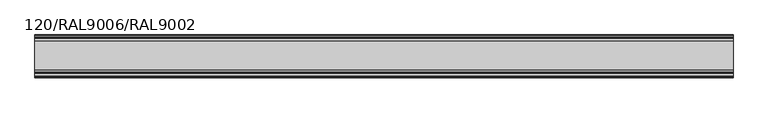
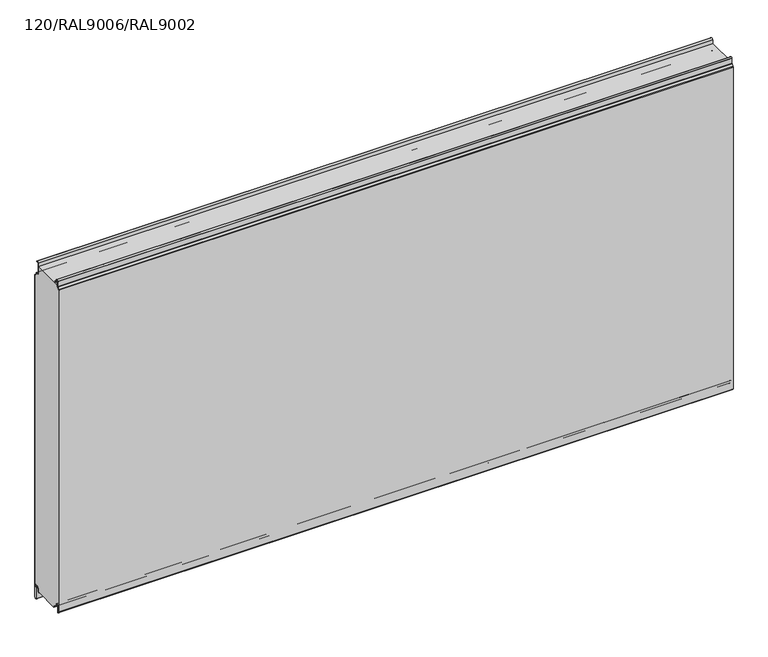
"""IFC4 building model written with IfcOpenShell, lengths in millimetres: plate geometry, TR_C_H_FHL_Panel : 120/RAL9006/RAL9002."""

from ifc_helpers import new_model, si_unit, point, frame, frame_2d, origin, place, context, project, spatial, polyline, circle_curve, trimmed, segment, composite_curve, outline, extrude, source, transform, mapped, element, save


def plate_120_ral9006_ral9002_4ea340ee(model_context):
    return source(origin(), model_context, "Body", "SweptSolid", [
        extrude(outline(composite_curve([segment(polyline([(-17.4455763, 1000.0), (-17.6, 998.2349288), (-17.6, 979.1)]), True, "CONTINUOUS"), segment(trimmed(circle_curve(frame_2d((-14.8, 979.1)), 2.8), [point((-17.6, 979.1))], [point((-14.8, 976.3))], True, "CARTESIAN"), True, "CONTINUOUS"), segment(polyline([(-14.8, 976.3), (-8.9, 976.3)]), True, "CONTINUOUS"), segment(trimmed(circle_curve(frame_2d((-8.9, 974.4)), 1.9), [point((-8.9, 976.3))], [point((-7.0, 974.4))], False, "CARTESIAN"), True, "CONTINUOUS"), segment(polyline([(-7.0, 974.4), (-7.0, 971.5838835)]), True, "CONTINUOUS"), segment(trimmed(circle_curve(frame_2d((-4.2, 971.5838835)), 2.8), [point((-7.0, 971.5838835))], [point((-6.179899, 969.6039845))], True, "CARTESIAN"), True, "CONTINUOUS"), segment(polyline([(-6.179899, 969.6039845), (-1.3564971, 964.7805826)]), True, "CONTINUOUS"), segment(trimmed(circle_curve(frame_2d((-2.7, 963.4370797)), 1.9), [point((-1.3564971, 964.7805826))], [point((-0.8, 963.4370797))], False, "CARTESIAN"), True, "CONTINUOUS"), segment(polyline([(-0.8, 963.4370797), (-0.8, 15.9993484), (-12.3520294, 15.9993484)]), True, "CONTINUOUS"), segment(trimmed(circle_curve(frame_2d((-12.3520294, 11.0993484)), 4.9), [point((-12.3520294, 15.9993484))], [point((-17.2333835, 11.5264116))], True, "CARTESIAN"), True, "CONTINUOUS"), segment(polyline([(-17.2333835, 11.5264116), (-18.0972969, 1.6518352)]), True, "CONTINUOUS"), segment(trimmed(circle_curve(frame_2d((-19.7908279, 1.8)), 1.7), [point((-18.0972969, 1.6518352))], [point((-19.7908279, 0.1))], False, "CARTESIAN"), True, "CONTINUOUS"), segment(polyline([(-19.7908279, 0.1), (-20.8, 0.0), (-94.86, 0.0), (-94.86, 7.9), (-102.3925589, 7.9)]), True, "CONTINUOUS"), segment(trimmed(circle_curve(frame_2d((-102.3925589, 10.85)), 2.95), [point((-102.3925589, 7.9))], [point((-105.2977418, 10.3377379))], False, "CARTESIAN"), True, "CONTINUOUS"), segment(polyline([(-105.2977418, 10.3377379), (-106.364567, 16.3880048)]), True, "CONTINUOUS"), segment(trimmed(circle_curve(frame_2d((-110.55, 15.65)), 4.25), [point((-106.364567, 16.3880048))], [point((-110.55, 19.9))], True, "CARTESIAN"), True, "CONTINUOUS"), segment(polyline([(-110.55, 19.9), (-119.2, 19.9), (-119.2, 989.8218254)]), True, "CONTINUOUS"), segment(trimmed(circle_curve(frame_2d((-117.0, 989.8218254)), 2.2), [point((-119.2, 989.8218254))], [point((-118.5556349, 991.3774603))], False, "CARTESIAN"), True, "CONTINUOUS"), segment(polyline([(-118.5556349, 991.3774603), (-114.1665476, 995.7665476)]), True, "CONTINUOUS"), segment(trimmed(circle_curve(frame_2d((-116.5, 998.1)), 3.3), [point((-114.1665476, 995.7665476))], [point((-113.2, 998.1))], True, "CARTESIAN"), True, "CONTINUOUS"), segment(polyline([(-113.2, 998.1), (-113.2, 1000.0), (-17.4455763, 1000.0)]), True, "CONTINUOUS")], self_intersect=False)), frame((-980.0, 0.0, 0.0), z_axis=(1.0, 0.0, 0.0), x_axis=(0.0, 1.0, 0.0)), (0.0, 0.0, 1.0), 1960.0),
        extrude(outline(composite_curve([segment(polyline([(-0.8, -25.1006169), (-0.8, 963.4370797)]), True, "CONTINUOUS"), segment(trimmed(circle_curve(frame_2d((-2.7, 963.4370797)), 1.9), [point((-0.8, 963.4370797))], [point((-1.3564971, 964.7805826))], True, "CARTESIAN"), True, "CONTINUOUS"), segment(polyline([(-1.3564971, 964.7805826), (-6.179899, 969.6039845)]), True, "CONTINUOUS"), segment(trimmed(circle_curve(frame_2d((-4.2, 971.5838835)), 2.8), [point((-6.179899, 969.6039845))], [point((-7.0, 971.5838835))], False, "CARTESIAN"), True, "CONTINUOUS"), segment(polyline([(-7.0, 971.5838835), (-7.0, 974.4)]), True, "CONTINUOUS"), segment(trimmed(circle_curve(frame_2d((-8.9, 974.4)), 1.9), [point((-7.0, 974.4))], [point((-8.9, 976.3))], True, "CARTESIAN"), True, "CONTINUOUS"), segment(polyline([(-8.9, 976.3), (-14.8, 976.3)]), True, "CONTINUOUS"), segment(trimmed(circle_curve(frame_2d((-14.8, 979.1)), 2.8), [point((-14.8, 976.3))], [point((-17.6, 979.1))], False, "CARTESIAN"), True, "CONTINUOUS"), segment(polyline([(-17.6, 979.1), (-17.6, 998.2349288), (-16.5051936, 1010.748623)]), True, "CONTINUOUS"), segment(trimmed(circle_curve(frame_2d((-12.5204148, 1010.4)), 4.0), [point((-16.5051936, 1010.748623))], [point((-8.7383405, 1011.7022726))], False, "CARTESIAN"), True, "CONTINUOUS"), segment(polyline([(-8.7383405, 1011.7022726), (-8.4287263, 1010.8030877), (-9.1851412, 1010.5426332), (-9.4947554, 1011.4418181)]), True, "CONTINUOUS"), segment(trimmed(circle_curve(frame_2d((-12.5204148, 1010.4)), 3.2), [point((-9.4947554, 1011.4418181))], [point((-15.7082379, 1010.6788984))], True, "CARTESIAN"), True, "CONTINUOUS"), segment(polyline([(-15.7082379, 1010.6788984), (-16.8, 998.2), (-16.8, 979.1)]), True, "CONTINUOUS"), segment(trimmed(circle_curve(frame_2d((-14.8, 979.1)), 2.0), [point((-16.8, 979.1))], [point((-14.8, 977.1))], True, "CARTESIAN"), True, "CONTINUOUS"), segment(polyline([(-14.8, 977.1), (-8.9, 977.1)]), True, "CONTINUOUS"), segment(trimmed(circle_curve(frame_2d((-8.9, 974.4)), 2.7), [point((-8.9, 977.1))], [point((-6.2, 974.4))], False, "CARTESIAN"), True, "CONTINUOUS"), segment(polyline([(-6.2, 974.4), (-6.2, 971.5838835)]), True, "CONTINUOUS"), segment(trimmed(circle_curve(frame_2d((-4.2, 971.5838835)), 2.0), [point((-6.2, 971.5838835))], [point((-5.6142136, 970.1696699))], True, "CARTESIAN"), True, "CONTINUOUS"), segment(polyline([(-5.6142136, 970.1696699), (-0.7908117, 965.346268)]), True, "CONTINUOUS"), segment(trimmed(circle_curve(frame_2d((-2.7, 963.4370797)), 2.7), [point((-0.7908117, 965.346268))], [point((0.0, 963.4370797))], False, "CARTESIAN"), True, "CONTINUOUS"), segment(polyline([(0.0, 963.4370797), (0.0, -25.1006169)]), True, "CONTINUOUS"), segment(trimmed(circle_curve(frame_2d((-2.7, -25.1006169)), 2.7), [point((0.0, -25.1006169))], [point((-0.8586044, -27.0752719))], False, "CARTESIAN"), True, "CONTINUOUS"), segment(polyline([(-0.8586044, -27.0752719), (-2.8042031, -28.889572)]), True, "CONTINUOUS"), segment(trimmed(circle_curve(frame_2d((-4.1, -27.5)), 1.9), [point((-2.8042031, -28.889572))], [point((-6.0, -27.5))], False, "CARTESIAN"), True, "CONTINUOUS"), segment(polyline([(-6.0, -27.5), (-6.0, 4.8267282)]), True, "CONTINUOUS"), segment(trimmed(circle_curve(frame_2d((-8.5, 4.8267282)), 2.5), [point((-6.0, 4.8267282))], [point((-6.1362036, 5.6406486))], True, "CARTESIAN"), True, "CONTINUOUS"), segment(polyline([(-6.1362036, 5.6406486), (-8.4754033, 12.4341779)]), True, "CONTINUOUS"), segment(trimmed(circle_curve(frame_2d((-12.3520294, 11.0993484)), 4.1), [point((-8.4754033, 12.4341779))], [point((-16.4364277, 11.456687))], True, "CARTESIAN"), True, "CONTINUOUS"), segment(polyline([(-16.4364277, 11.456687), (-17.3003412, 1.5821106)]), True, "CONTINUOUS"), segment(trimmed(circle_curve(frame_2d((-19.7908279, 1.8)), 2.5), [point((-17.3003412, 1.5821106))], [point((-19.7908279, -0.7))], False, "CARTESIAN"), True, "CONTINUOUS"), segment(polyline([(-19.7908279, -0.7), (-20.8, -0.7), (-20.8, 0.1), (-19.7908279, 0.1)]), True, "CONTINUOUS"), segment(trimmed(circle_curve(frame_2d((-19.7908279, 1.8)), 1.7), [point((-19.7908279, 0.1))], [point((-18.0972969, 1.6518352))], True, "CARTESIAN"), True, "CONTINUOUS"), segment(polyline([(-18.0972969, 1.6518352), (-17.2333835, 11.5264116)]), True, "CONTINUOUS"), segment(trimmed(circle_curve(frame_2d((-12.3520294, 11.0993484)), 4.9), [point((-17.2333835, 11.5264116))], [point((-7.7189884, 12.6946324))], False, "CARTESIAN"), True, "CONTINUOUS"), segment(polyline([(-7.7189884, 12.6946324), (-5.3797887, 5.9011031)]), True, "CONTINUOUS"), segment(trimmed(circle_curve(frame_2d((-8.5, 4.8267282)), 3.3), [point((-5.3797887, 5.9011031))], [point((-5.2, 4.8267282))], False, "CARTESIAN"), True, "CONTINUOUS"), segment(polyline([(-5.2, 4.8267282), (-5.2, -27.5)]), True, "CONTINUOUS"), segment(trimmed(circle_curve(frame_2d((-4.1, -27.5)), 1.1), [point((-5.2, -27.5))], [point((-3.3498018, -28.3044891))], True, "CARTESIAN"), True, "CONTINUOUS"), segment(polyline([(-3.3498018, -28.3044891), (-1.4042031, -26.4901889)]), True, "CONTINUOUS"), segment(trimmed(circle_curve(frame_2d((-2.7, -25.1006169)), 1.9), [point((-1.4042031, -26.4901889))], [point((-0.8, -25.1006169))], True, "CARTESIAN"), True, "CONTINUOUS")], self_intersect=False)), frame((-980.0, 0.0, 0.0), z_axis=(1.0, 0.0, 0.0), x_axis=(0.0, 1.0, 0.0)), (0.0, 0.0, 1.0), 1960.0),
        extrude(outline(composite_curve([segment(polyline([(-99.0, 7.1), (-102.3925589, 7.1)]), True, "CONTINUOUS"), segment(trimmed(circle_curve(frame_2d((-102.3925589, 10.85)), 3.75), [point((-102.3925589, 7.1))], [point((-106.085588, 10.1988193))], False, "CARTESIAN"), True, "CONTINUOUS"), segment(polyline([(-106.085588, 10.1988193), (-107.1524133, 16.2490862)]), True, "CONTINUOUS"), segment(trimmed(circle_curve(frame_2d((-110.55, 15.65)), 3.45), [point((-107.1524133, 16.2490862))], [point((-114.0, 15.65))], True, "CARTESIAN"), True, "CONTINUOUS"), segment(polyline([(-114.0, 15.65), (-114.0, -1.95)]), True, "CONTINUOUS"), segment(trimmed(circle_curve(frame_2d((-115.95, -1.95)), 1.95), [point((-114.0, -1.95))], [point((-117.3288582, -3.3288582))], False, "CARTESIAN"), True, "CONTINUOUS"), segment(polyline([(-117.3288582, -3.3288582), (-119.1945436, -1.4631728)]), True, "CONTINUOUS"), segment(trimmed(circle_curve(frame_2d((-117.25, 0.4813708)), 2.75), [point((-119.1945436, -1.4631728))], [point((-120.0, 0.4813708))], False, "CARTESIAN"), True, "CONTINUOUS"), segment(polyline([(-120.0, 0.4813708), (-120.0, 989.8218254)]), True, "CONTINUOUS"), segment(trimmed(circle_curve(frame_2d((-117.0, 989.8218254)), 3.0), [point((-120.0, 989.8218254))], [point((-119.1213203, 991.9431458))], False, "CARTESIAN"), True, "CONTINUOUS"), segment(polyline([(-119.1213203, 991.9431458), (-114.732233, 996.332233)]), True, "CONTINUOUS"), segment(trimmed(circle_curve(frame_2d((-116.5, 998.1)), 2.5), [point((-114.732233, 996.332233))], [point((-114.0, 998.1))], True, "CARTESIAN"), True, "CONTINUOUS"), segment(polyline([(-114.0, 998.1), (-114.0, 1012.85)]), True, "CONTINUOUS"), segment(trimmed(circle_curve(frame_2d((-110.75, 1012.85)), 3.25), [point((-114.0, 1012.85))], [point((-107.5493748, 1013.4143566))], False, "CARTESIAN"), True, "CONTINUOUS"), segment(polyline([(-107.5493748, 1013.4143566), (-106.8060618, 1009.1988193)]), True, "CONTINUOUS"), segment(trimmed(circle_curve(frame_2d((-103.1130328, 1009.85)), 3.75), [point((-106.8060618, 1009.1988193))], [point((-103.1130328, 1006.1))], True, "CARTESIAN"), True, "CONTINUOUS"), segment(polyline([(-103.1130328, 1006.1), (-99.0, 1006.1), (-99.0, 1005.3), (-103.1130328, 1005.3)]), True, "CONTINUOUS"), segment(trimmed(circle_curve(frame_2d((-103.1130328, 1009.85)), 4.55), [point((-103.1130328, 1005.3))], [point((-107.5939081, 1009.0599008))], False, "CARTESIAN"), True, "CONTINUOUS"), segment(polyline([(-107.5939081, 1009.0599008), (-108.337221, 1013.275438)]), True, "CONTINUOUS"), segment(trimmed(circle_curve(frame_2d((-110.75, 1012.85)), 2.45), [point((-108.337221, 1013.275438))], [point((-113.2, 1012.85))], True, "CARTESIAN"), True, "CONTINUOUS"), segment(polyline([(-113.2, 1012.85), (-113.2, 998.1)]), True, "CONTINUOUS"), segment(trimmed(circle_curve(frame_2d((-116.5, 998.1)), 3.3), [point((-113.2, 998.1))], [point((-114.1665476, 995.7665476))], False, "CARTESIAN"), True, "CONTINUOUS"), segment(polyline([(-114.1665476, 995.7665476), (-118.5556349, 991.3774603)]), True, "CONTINUOUS"), segment(trimmed(circle_curve(frame_2d((-117.0, 989.8218254)), 2.2), [point((-118.5556349, 991.3774603))], [point((-119.2, 989.8218254))], True, "CARTESIAN"), True, "CONTINUOUS"), segment(polyline([(-119.2, 989.8218254), (-119.2, 0.4813708)]), True, "CONTINUOUS"), segment(trimmed(circle_curve(frame_2d((-117.25, 0.4813708)), 1.95), [point((-119.2, 0.4813708))], [point((-118.6288582, -0.8974874))], True, "CARTESIAN"), True, "CONTINUOUS"), segment(polyline([(-118.6288582, -0.8974874), (-116.7631728, -2.7631728)]), True, "CONTINUOUS"), segment(trimmed(circle_curve(frame_2d((-115.95, -1.95)), 1.15), [point((-116.7631728, -2.7631728))], [point((-114.8, -1.95))], True, "CARTESIAN"), True, "CONTINUOUS"), segment(polyline([(-114.8, -1.95), (-114.8, 15.65)]), True, "CONTINUOUS"), segment(trimmed(circle_curve(frame_2d((-110.55, 15.65)), 4.25), [point((-114.8, 15.65))], [point((-106.364567, 16.3880048))], False, "CARTESIAN"), True, "CONTINUOUS"), segment(polyline([(-106.364567, 16.3880048), (-105.2977418, 10.3377379)]), True, "CONTINUOUS"), segment(trimmed(circle_curve(frame_2d((-102.3925589, 10.85)), 2.95), [point((-105.2977418, 10.3377379))], [point((-102.3925589, 7.9))], True, "CARTESIAN"), True, "CONTINUOUS"), segment(polyline([(-102.3925589, 7.9), (-99.0, 7.9), (-99.0, 7.1)]), True, "CONTINUOUS")], self_intersect=False)), frame((-980.0, 0.0, 0.0), z_axis=(1.0, 0.0, 0.0), x_axis=(0.0, 1.0, 0.0)), (0.0, 0.0, 1.0), 1960.0),
    ])


if __name__ == "__main__":
    model = new_model("IFC4")
    model_context = context("Model", 3, world=origin())
    ifc_project = project(units=[si_unit("LENGTHUNIT", "METRE", prefix="MILLI")], contexts=[model_context])
    site = spatial("IfcSite", under=ifc_project)
    building = spatial("IfcBuilding", under=site)
    placement = place(None, origin())
    plate_120_ral9006_ral9002_shape = plate_120_ral9006_ral9002_4ea340ee(model_context)
    element("IfcPlate", 1, ObjectType="TR_C_H_FHL_Panel : 120/RAL9006/RAL9002", at=placement, inside=building, context=model_context, shape_type="MappedRepresentation", body=[
        mapped(plate_120_ral9006_ral9002_shape, transform((0.0, 0.0, 0.0), x_axis=(1.0, 0.0, 0.0), y_axis=(0.0, 1.0, 0.0), z_axis=(0.0, 0.0, 1.0))),
    ])
    save(model, "model.ifc")
